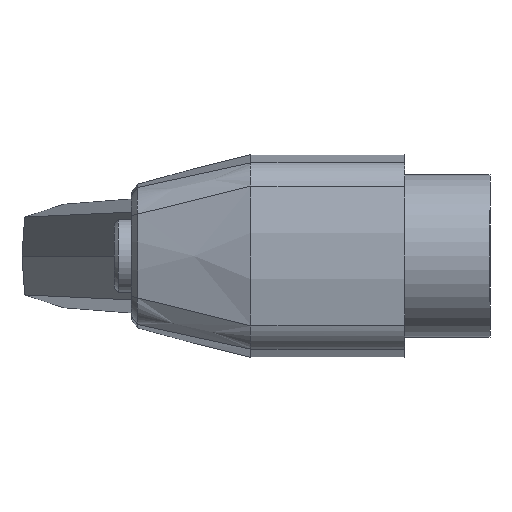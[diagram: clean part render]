
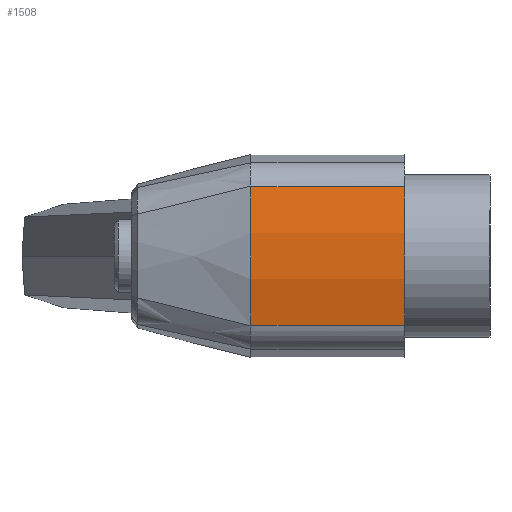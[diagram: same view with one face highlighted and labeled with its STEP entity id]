
A CAD part, left-side view. The second image highlights one B-rep face of the part: STEP entity #1508.
In plain terms, the highlighted cylindrical face has radius 31.377 mm (diameter 62.754 mm), a partial arc.
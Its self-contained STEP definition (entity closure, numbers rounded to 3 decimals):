
#11 = EDGE_CURVE ( 'NONE', #161, #1101, #514, .T. ) ;
#54 = ORIENTED_EDGE ( 'NONE', *, *, #462, .T. ) ;
#103 = ORIENTED_EDGE ( 'NONE', *, *, #11, .T. ) ;
#161 = VERTEX_POINT ( 'NONE', #1512 ) ;
#313 = ORIENTED_EDGE ( 'NONE', *, *, #1922, .T. ) ;
#331 = CIRCLE ( 'NONE', #557, 31.377 ) ;
#392 = CARTESIAN_POINT ( 'NONE',  ( -10.935, 0., -8.104 ) ) ;
#446 = LINE ( 'NONE', #469, #739 ) ;
#462 = EDGE_CURVE ( 'NONE', #1773, #1312, #446, .T. ) ;
#469 = CARTESIAN_POINT ( 'NONE',  ( -10.935, 18., 8.104 ) ) ;
#480 = AXIS2_PLACEMENT_3D ( 'NONE', #1644, #486, #906 ) ;
#486 = DIRECTION ( 'NONE',  ( 0., 1., 0. ) ) ;
#514 = LINE ( 'NONE', #1529, #703 ) ;
#526 = EDGE_CURVE ( 'NONE', #161, #1312, #1235, .T. ) ;
#557 = AXIS2_PLACEMENT_3D ( 'NONE', #871, #1044, #911 ) ;
#564 = FACE_OUTER_BOUND ( 'NONE', #1142, .T. ) ;
#703 = VECTOR ( 'NONE', #1826, 1000. ) ;
#708 = DIRECTION ( 'NONE',  ( 0., -1., 0. ) ) ;
#739 = VECTOR ( 'NONE', #914, 1000. ) ;
#801 = CARTESIAN_POINT ( 'NONE',  ( -10.935, 18., 8.104 ) ) ;
#871 = CARTESIAN_POINT ( 'NONE',  ( 19.377, 0., 0. ) ) ;
#906 = DIRECTION ( 'NONE',  ( 0., 0., -1. ) ) ;
#911 = DIRECTION ( 'NONE',  ( 0., 0., 1. ) ) ;
#914 = DIRECTION ( 'NONE',  ( 0., 1., 0. ) ) ;
#1030 = DIRECTION ( 'NONE',  ( 0., 0., -1. ) ) ;
#1044 = DIRECTION ( 'NONE',  ( 0., 1., 0. ) ) ;
#1101 = VERTEX_POINT ( 'NONE', #392 ) ;
#1142 = EDGE_LOOP ( 'NONE', ( #1919, #103, #313, #54 ) ) ;
#1180 = CYLINDRICAL_SURFACE ( 'NONE', #1215, 31.377 ) ;
#1215 = AXIS2_PLACEMENT_3D ( 'NONE', #1453, #708, #1030 ) ;
#1235 = CIRCLE ( 'NONE', #480, 31.377 ) ;
#1312 = VERTEX_POINT ( 'NONE', #801 ) ;
#1415 = CARTESIAN_POINT ( 'NONE',  ( -10.935, 0., 8.104 ) ) ;
#1453 = CARTESIAN_POINT ( 'NONE',  ( 19.377, 18., 0. ) ) ;
#1508 = ADVANCED_FACE ( 'NONE', ( #564 ), #1180, .T. ) ;
#1512 = CARTESIAN_POINT ( 'NONE',  ( -10.935, 18., -8.104 ) ) ;
#1529 = CARTESIAN_POINT ( 'NONE',  ( -10.935, 18., -8.104 ) ) ;
#1644 = CARTESIAN_POINT ( 'NONE',  ( 19.377, 18., 0. ) ) ;
#1773 = VERTEX_POINT ( 'NONE', #1415 ) ;
#1826 = DIRECTION ( 'NONE',  ( 0., -1., 0. ) ) ;
#1919 = ORIENTED_EDGE ( 'NONE', *, *, #526, .F. ) ;
#1922 = EDGE_CURVE ( 'NONE', #1101, #1773, #331, .T. ) ;
